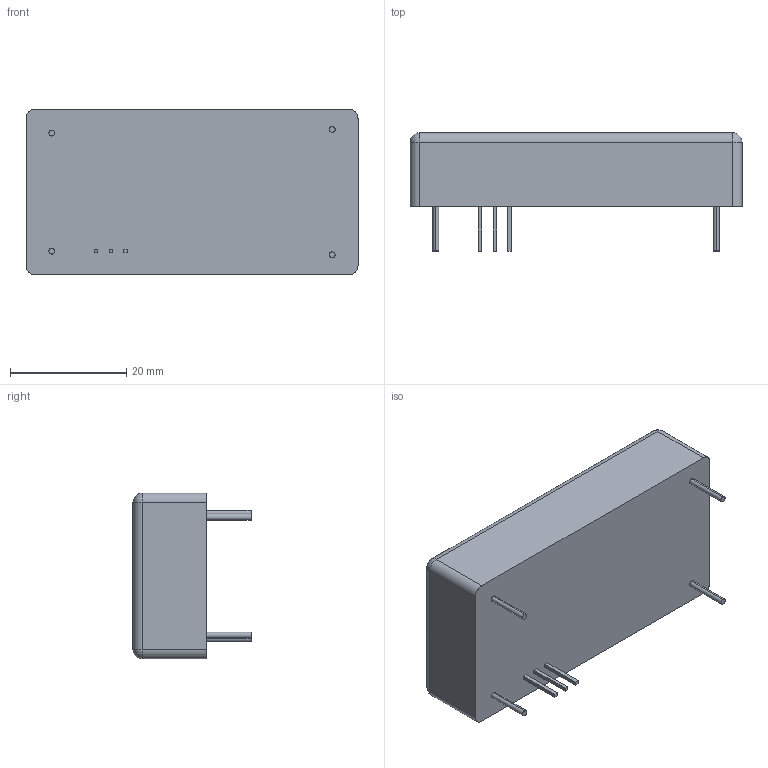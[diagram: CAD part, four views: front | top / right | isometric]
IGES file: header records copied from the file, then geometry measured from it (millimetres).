
Start section: SolidWorks IGES file using analytic representation for surfaces
Global section: file name: \\engineering\eshare\SolidWorks (General)\Josh Moua\~pendingECO\model outline of products\Approved Models\FS\4725V01 - Smart\XP EMCO FS Smart  - 4725V01.IGS; native system: SolidWorks 2014; preprocessor: SolidWorks 2014; author: jmoua; date: 160824.140823; units: inch
Bounding box: 57.15 x 20.32 x 28.57 mm (x, y, z)
Surface area: 5554.7 mm2 (no closed solid volume)
Topology: 0 solids, 0 shells, 65 faces, 552 edges, 548 vertices
Faces by surface type: bspline 41, revolution 24
